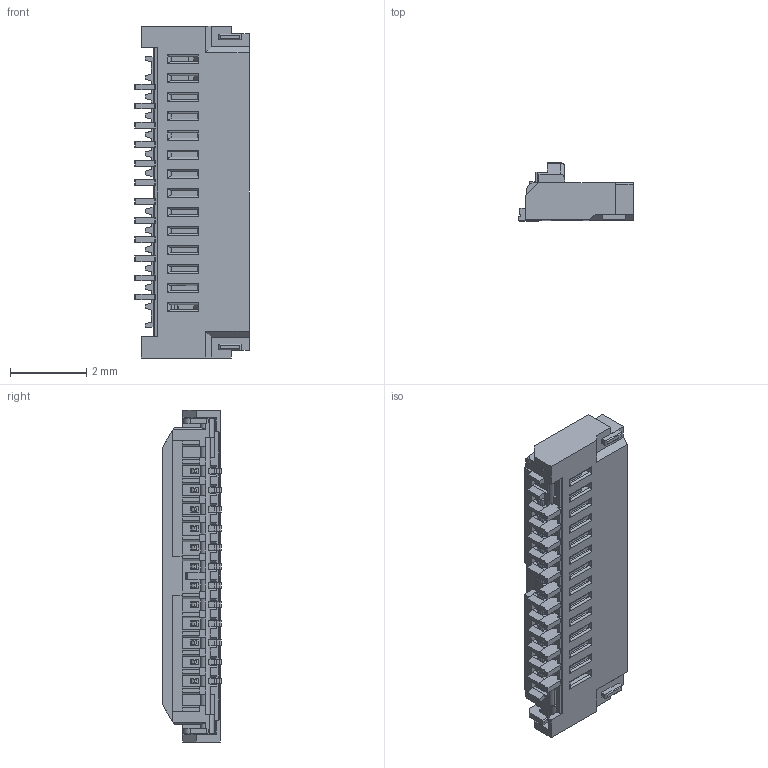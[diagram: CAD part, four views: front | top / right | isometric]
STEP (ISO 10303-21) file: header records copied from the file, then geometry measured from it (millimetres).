
FILE_DESCRIPTION (( 'STEP AP214' ), '1' );
FILE_NAME ('20597-RECE ASS''Y 10P ACT OPEN.STEP', '2015-07-22T06:48:13', ( '' ), ( '' ), 'SwSTEP 2.0', 'SolidWorks 2012', '' );
FILE_SCHEMA (( 'AUTOMOTIVE_DESIGN' ));
Length unit declared in the file: millimetre
Products named in the file (1): 20597-RECE ASS''Y 10P ACT OPEN
Bounding box: 3 x 1.52 x 8.7 mm (x, y, z)
Volume: 22.5 mm3; surface area: 93.8 mm2
Topology: 1 solids, 3 shells, 855 faces, 2392 edges, 1547 vertices
Faces by surface type: plane 643, cylinder 210, sphere 2
Entity records: 27461 total; most frequent: CARTESIAN_POINT 5705, ORIENTED_EDGE 4780, DIRECTION 4213, EDGE_CURVE 2390, VECTOR 1895, LINE 1895, VERTEX_POINT 1547, AXIS2_PLACEMENT_3D 1159
